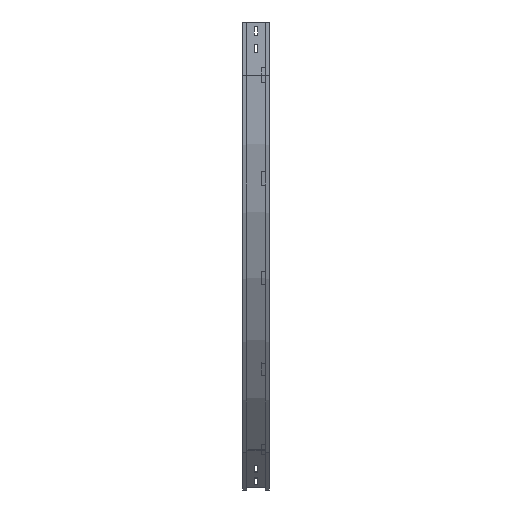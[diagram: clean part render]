
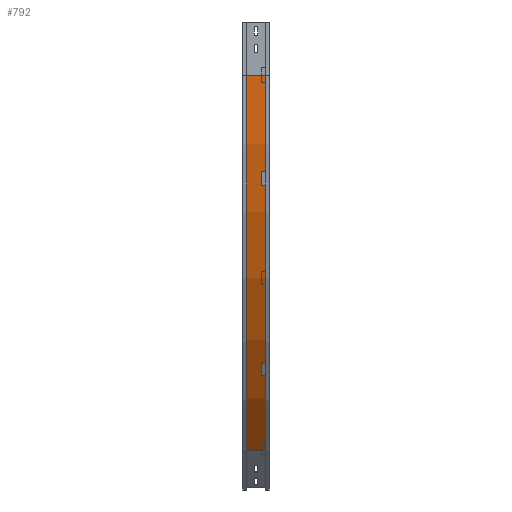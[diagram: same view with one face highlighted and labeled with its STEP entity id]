
A CAD part, left-side view. The second image highlights one B-rep face of the part: STEP entity #792.
In plain terms, the highlighted cylindrical face has radius 1500 mm (diameter 3000 mm), a partial arc.
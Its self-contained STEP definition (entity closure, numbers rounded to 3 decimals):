
#171 = AXIS2_PLACEMENT_3D ( 'NONE', #2502, #568, #1426 ) ;
#214 = VERTEX_POINT ( 'NONE', #733 ) ;
#363 = ORIENTED_EDGE ( 'NONE', *, *, #2580, .F. ) ;
#379 = CARTESIAN_POINT ( 'NONE',  ( 448.34, 12., -1210.66 ) ) ;
#426 = ORIENTED_EDGE ( 'NONE', *, *, #2653, .F. ) ;
#439 = ORIENTED_EDGE ( 'NONE', *, *, #809, .T. ) ;
#568 = DIRECTION ( 'NONE',  ( 0., -1., 0. ) ) ;
#581 = DIRECTION ( 'NONE',  ( 0., 0., -1. ) ) ;
#624 = EDGE_LOOP ( 'NONE', ( #363, #426, #3106, #439 ) ) ;
#633 = FACE_OUTER_BOUND ( 'NONE', #624, .T. ) ;
#662 = VECTOR ( 'NONE', #1956, 1000. ) ;
#733 = CARTESIAN_POINT ( 'NONE',  ( 9., 12., -150. ) ) ;
#792 = ADVANCED_FACE ( 'NONE', ( #633 ), #2456, .T. ) ;
#809 = EDGE_CURVE ( 'NONE', #1659, #2053, #2752, .T. ) ;
#872 = DIRECTION ( 'NONE',  ( 0., -1., 0. ) ) ;
#914 = VERTEX_POINT ( 'NONE', #1230 ) ;
#1021 = CIRCLE ( 'NONE', #171, 1500. ) ;
#1161 = CARTESIAN_POINT ( 'NONE',  ( 1509., 63., -150. ) ) ;
#1230 = CARTESIAN_POINT ( 'NONE',  ( 9., 63., -150. ) ) ;
#1405 = DIRECTION ( 'NONE',  ( 0., -1., 0. ) ) ;
#1426 = DIRECTION ( 'NONE',  ( -1., 0., 0. ) ) ;
#1443 = AXIS2_PLACEMENT_3D ( 'NONE', #2234, #1405, #581 ) ;
#1445 = LINE ( 'NONE', #2474, #662 ) ;
#1659 = VERTEX_POINT ( 'NONE', #3356 ) ;
#1707 = DIRECTION ( 'NONE',  ( 0., -1., 0. ) ) ;
#1841 = VECTOR ( 'NONE', #872, 1000. ) ;
#1956 = DIRECTION ( 'NONE',  ( 0., -1., 0. ) ) ;
#2053 = VERTEX_POINT ( 'NONE', #2885 ) ;
#2192 = AXIS2_PLACEMENT_3D ( 'NONE', #1161, #1707, #2717 ) ;
#2234 = CARTESIAN_POINT ( 'NONE',  ( 1509., 0., -150. ) ) ;
#2417 = CIRCLE ( 'NONE', #2192, 1500. ) ;
#2456 = CYLINDRICAL_SURFACE ( 'NONE', #1443, 1500. ) ;
#2474 = CARTESIAN_POINT ( 'NONE',  ( 9., 12., -150. ) ) ;
#2502 = CARTESIAN_POINT ( 'NONE',  ( 1509., 12., -150. ) ) ;
#2580 = EDGE_CURVE ( 'NONE', #214, #2053, #1021, .T. ) ;
#2653 = EDGE_CURVE ( 'NONE', #914, #214, #1445, .T. ) ;
#2717 = DIRECTION ( 'NONE',  ( -1., 0., 0. ) ) ;
#2752 = LINE ( 'NONE', #379, #1841 ) ;
#2885 = CARTESIAN_POINT ( 'NONE',  ( 448.34, 12., -1210.66 ) ) ;
#3086 = EDGE_CURVE ( 'NONE', #914, #1659, #2417, .T. ) ;
#3106 = ORIENTED_EDGE ( 'NONE', *, *, #3086, .T. ) ;
#3356 = CARTESIAN_POINT ( 'NONE',  ( 448.34, 63., -1210.66 ) ) ;
